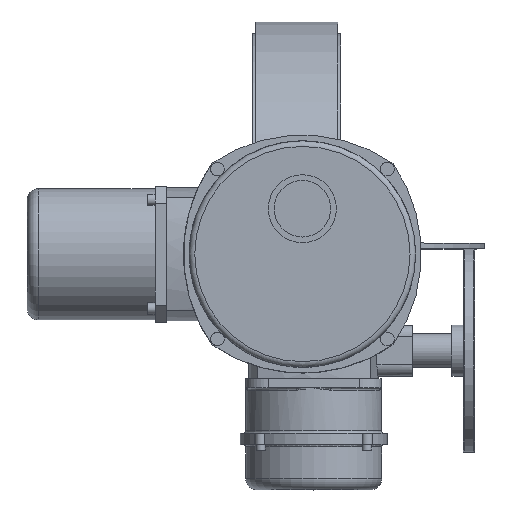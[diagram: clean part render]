
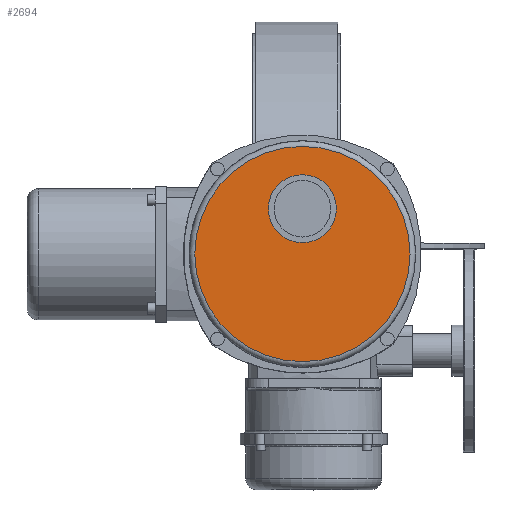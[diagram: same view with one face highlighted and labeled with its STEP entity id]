
A CAD part, top view. The second image highlights one B-rep face of the part: STEP entity #2694.
In plain terms, the highlighted planar face has unit normal (0, 0, 1).
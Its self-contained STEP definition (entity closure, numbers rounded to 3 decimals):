
#2694=ADVANCED_FACE('',(#5913,#5915),#5917,.T.);
#5913=FACE_BOUND('',#5914,.T.);
#5914=EDGE_LOOP('',(#7515));
#5915=FACE_BOUND('',#5916,.T.);
#5916=EDGE_LOOP('',(#7516));
#5917=PLANE('',#5918);
#5918=AXIS2_PLACEMENT_3D('',#5919,#5920,#5921);
#5919=CARTESIAN_POINT('',(5.,-8.,563.));
#5920=DIRECTION('',(0.,0.,1.));
#5921=DIRECTION('',(1.,0.,0.));
#7515=ORIENTED_EDGE('',*,*,#8274,.T.);
#7516=ORIENTED_EDGE('',*,*,#8337,.F.);
#8274=EDGE_CURVE('',#9411,#9411,#9412,.T.);
#8337=EDGE_CURVE('',#9513,#9513,#9514,.T.);
#9411=VERTEX_POINT('',#14647);
#9412=CIRCLE('',#14648,95.);
#9513=VERTEX_POINT('',#14908);
#9514=CIRCLE('',#14909,30.);
#14647=CARTESIAN_POINT('',(100.,-8.,563.));
#14648=AXIS2_PLACEMENT_3D('',#14649,#14650,#14651);
#14649=CARTESIAN_POINT('',(5.,-8.,563.));
#14650=DIRECTION('',(0.,0.,1.));
#14651=DIRECTION('',(1.,0.,0.));
#14908=CARTESIAN_POINT('',(35.,32.,563.));
#14909=AXIS2_PLACEMENT_3D('',#14910,#14911,#14912);
#14910=CARTESIAN_POINT('',(5.,32.,563.));
#14911=DIRECTION('',(0.,0.,1.));
#14912=DIRECTION('',(1.,0.,0.));
